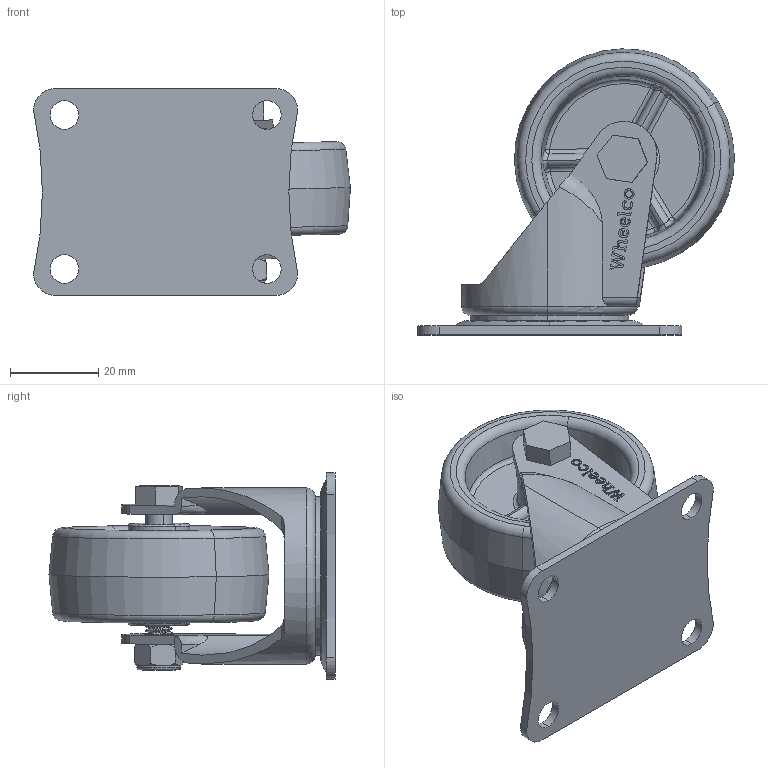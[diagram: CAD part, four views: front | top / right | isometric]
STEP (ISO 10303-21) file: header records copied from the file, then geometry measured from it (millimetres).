
FILE_DESCRIPTION (( 'STEP AP214' ), '1' );
FILE_NAME ('WLN50-P.step', '2024-01-15T01:45:28', ( '' ), ( '' ), 'SwSTEP 2.0', 'SolidWorks 2022', '' );
FILE_SCHEMA (( 'AUTOMOTIVE_DESIGN' ));
Length unit declared in the file: millimetre
Products named in the file (6): M6NYLOC-WHITE; 60X47; WL50-P; M6X35; WLN50-P; WLN50
Assembly tree (5 placements, depth 2):
  WLN50-P
    60X47
    WL50-P
    M6X35
    M6NYLOC-WHITE
    WLN50
Bounding box: 71.98 x 64.99 x 47 mm (x, y, z)
Volume: 41234.4 mm3; surface area: 24905.9 mm2
Topology: 5 solids, 5 shells, 385 faces, 960 edges, 603 vertices
Faces by surface type: plane 125, cylinder 115, bspline 69, torus 42, cone 22, sphere 12
Entity records: 18672 total; most frequent: CARTESIAN_POINT 9504, ORIENTED_EDGE 1920, DIRECTION 1578, EDGE_CURVE 960, VERTEX_POINT 603, AXIS2_PLACEMENT_3D 573, VECTOR 432, LINE 432
